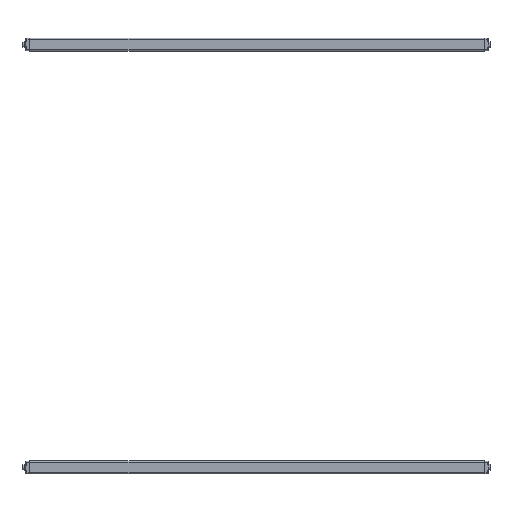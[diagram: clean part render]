
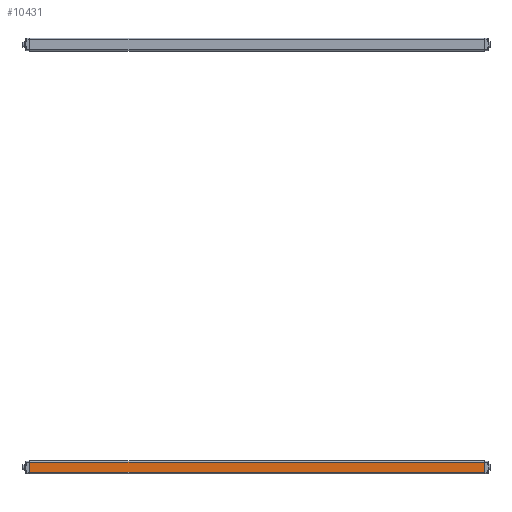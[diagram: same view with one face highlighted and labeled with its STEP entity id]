
A CAD part, front view. The second image highlights one B-rep face of the part: STEP entity #10431.
In plain terms, the highlighted planar face has unit normal (0, -1, 0) as drawn and (0, 1, 0) by its records, which use the part's own axes.
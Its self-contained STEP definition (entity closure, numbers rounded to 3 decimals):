
#754=LINE('',#15338,#1927);
#824=LINE('',#15490,#1997);
#918=LINE('',#15690,#2091);
#919=LINE('',#15691,#2092);
#1927=VECTOR('',#12160,1000.);
#1997=VECTOR('',#12258,1000.);
#2091=VECTOR('',#12444,1000.);
#2092=VECTOR('',#12445,1000.);
#3410=ORIENTED_EDGE('',*,*,#6192,.F.);
#3411=ORIENTED_EDGE('',*,*,#6294,.F.);
#3412=ORIENTED_EDGE('',*,*,#6115,.T.);
#3413=ORIENTED_EDGE('',*,*,#6295,.T.);
#6115=EDGE_CURVE('',#7621,#7620,#754,.T.);
#6192=EDGE_CURVE('',#7688,#7689,#824,.T.);
#6294=EDGE_CURVE('',#7621,#7688,#918,.T.);
#6295=EDGE_CURVE('',#7620,#7689,#919,.T.);
#7620=VERTEX_POINT('',#15337);
#7621=VERTEX_POINT('',#15339);
#7688=VERTEX_POINT('',#15489);
#7689=VERTEX_POINT('',#15491);
#8881=EDGE_LOOP('',(#3410,#3411,#3412,#3413));
#9465=FACE_BOUND('',#8881,.T.);
#10046=PLANE('',#11081);
#10431=ADVANCED_FACE('',(#9465),#10046,.T.);
#11081=AXIS2_PLACEMENT_3D('',#15689,#12442,#12443);
#12160=DIRECTION('',(0.,0.,1.));
#12258=DIRECTION('',(0.,0.,1.));
#12442=DIRECTION('',(0.,1.,0.));
#12443=DIRECTION('',(0.,0.,-1.));
#12444=DIRECTION('',(1.,0.,0.));
#12445=DIRECTION('',(1.,0.,0.));
#15337=CARTESIAN_POINT('',(0.,15.15,12.));
#15338=CARTESIAN_POINT('',(0.,15.15,-12.));
#15339=CARTESIAN_POINT('',(0.,15.15,-12.));
#15489=CARTESIAN_POINT('',(1105.,15.15,-12.));
#15490=CARTESIAN_POINT('',(1105.,15.15,0.));
#15491=CARTESIAN_POINT('',(1105.,15.15,12.));
#15689=CARTESIAN_POINT('',(0.,15.15,-15.65));
#15690=CARTESIAN_POINT('',(0.,15.15,-12.));
#15691=CARTESIAN_POINT('',(0.,15.15,12.));
